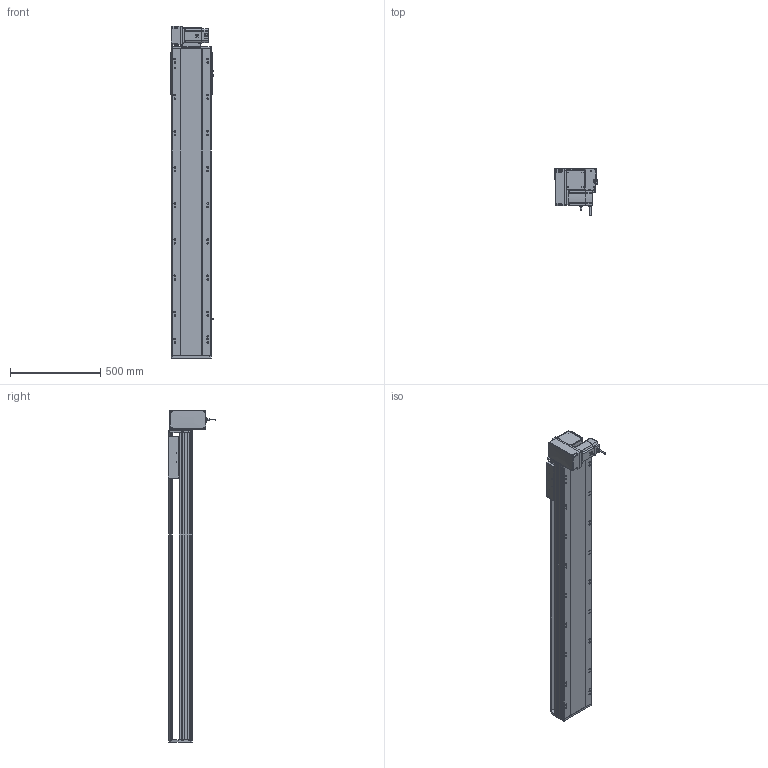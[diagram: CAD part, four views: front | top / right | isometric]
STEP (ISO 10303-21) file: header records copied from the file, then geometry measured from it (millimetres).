
FILE_DESCRIPTION (( 'STEP AP214' ), '1' );
FILE_NAME ('RTB22S-XX-1350-LM-M75-C4.STEP', '2025-12-12T03:51:32', ( '' ), ( '' ), 'SwSTEP 2.0', 'SolidWorks 2018', '' );
FILE_SCHEMA (( 'AUTOMOTIVE_DESIGN' ));
Length unit declared in the file: millimetre
Products named in the file (14): RTB22S-GY-018P^RMP22S-LM-々湍釱蚾饜_RTB22S-XX-XX-LM-M75-C4; RTB22S-GY-008-M75--萇儂啣^RMP22S-LM-々湍釱蚾饜_RTB22S-XX-XX-LM-M75-C4; RTB22S-GY-005P^RMP22S-LM-々湍釱蚾饜_RTB22S-XX-XX-LM-M75-C4; RTB22S-GY-001耜裔^RTB22S-XX-XX-LM-M75-C4; RMP22S-LM-々湍釱蚾饜^RTB22S-XX-XX-LM-M75-C4; RTB22S-XX-1350-LM-M75-C4; RTB22S-L-011菁釱^RTB22S-XX-XX-LM-M75-C4; RTB22S-GY-007奻裔^RTB22S-XX-XX-LM-M75-C4; RTH22-GY-013外置感应片^RTB22S-XX-XX-LM-M75-C4; RTB22S-GY-014--々湍釱^RMP22S-LM-々湍釱蚾饜_RTB22S-XX-XX-LM-M75-C4; OMRON EE-SX672 传感器^RTB22S-XX-XX-LM-M75-C4; RTB22S-GY-017P^RMP22S-LM-々湍釱蚾饜_RTB22S-XX-XX-LM-M75-C4; RTB22S-L-004賑釱^RTB22S-XX-XX-LM-M75-C4; 750W萇儂^RTB22S-XX-XX-LM-M75-C4
Assembly tree (16 placements, depth 3):
  RTB22S-XX-1350-LM-M75-C4
    RTB22S-L-011菁釱^RTB22S-XX-XX-LM-M75-C4
    RTB22S-GY-001耜裔^RTB22S-XX-XX-LM-M75-C4
    750W萇儂^RTB22S-XX-XX-LM-M75-C4
    RTB22S-GY-007奻裔^RTB22S-XX-XX-LM-M75-C4
    RTB22S-L-004賑釱^RTB22S-XX-XX-LM-M75-C4
    RTH22-GY-013外置感应片^RTB22S-XX-XX-LM-M75-C4
    OMRON EE-SX672 传感器^RTB22S-XX-XX-LM-M75-C4  x3
    RMP22S-LM-々湍釱蚾饜^RTB22S-XX-XX-LM-M75-C4
      RTB22S-GY-014--々湍釱^RMP22S-LM-々湍釱蚾饜_RTB22S-XX-XX-LM-M75-C4
      RTB22S-GY-017P^RMP22S-LM-々湍釱蚾饜_RTB22S-XX-XX-LM-M75-C4  x2
      RTB22S-GY-005P^RMP22S-LM-々湍釱蚾饜_RTB22S-XX-XX-LM-M75-C4
      RTB22S-GY-008-M75--萇儂啣^RMP22S-LM-々湍釱蚾饜_RTB22S-XX-XX-LM-M75-C4
      RTB22S-GY-018P^RMP22S-LM-々湍釱蚾饜_RTB22S-XX-XX-LM-M75-C4
Bounding box: 238.5 x 264.7 x 1837.5 mm (x, y, z)
Volume: 25367960.1 mm3; surface area: 2623676 mm2
Topology: 15 solids, 15 shells, 2001 faces, 5436 edges, 3482 vertices
Faces by surface type: plane 917, cylinder 634, bspline 296, cone 142, sphere 8, torus 4
Entity records: 53426 total; most frequent: CARTESIAN_POINT 15320, ORIENTED_EDGE 7652, DIRECTION 7380, EDGE_CURVE 3826, AXIS2_PLACEMENT_3D 2610, VERTEX_POINT 2486, LINE 2160, VECTOR 2160
